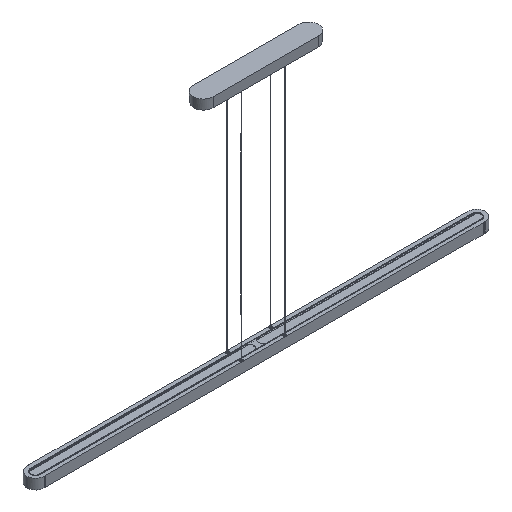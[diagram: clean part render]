
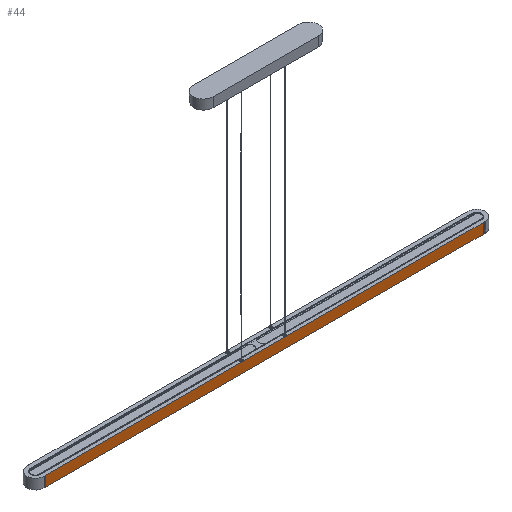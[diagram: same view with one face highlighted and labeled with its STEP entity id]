
A CAD part, isometric view. The second image highlights one B-rep face of the part: STEP entity #44.
In plain terms, the highlighted planar face has unit normal (0, -1, 0).
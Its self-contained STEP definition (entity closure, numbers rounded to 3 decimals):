
#44=ADVANCED_FACE($,(#174),#1716,.T.);
#174=FACE_OUTER_BOUND($,#306,.T.);
#306=EDGE_LOOP($,(#520,#521,#522,#523));
#520=ORIENTED_EDGE($,*,*,#1174,.F.);
#521=ORIENTED_EDGE($,*,*,#1119,.F.);
#522=ORIENTED_EDGE($,*,*,#1155,.T.);
#523=ORIENTED_EDGE($,*,*,#1135,.F.);
#1119=EDGE_CURVE($,#1441,#1442,#1943,.T.);
#1135=EDGE_CURVE($,#1457,#1458,#1959,.T.);
#1155=EDGE_CURVE($,#1441,#1458,#1979,.T.);
#1174=EDGE_CURVE($,#1442,#1457,#1993,.T.);
#1441=VERTEX_POINT($,#2669);
#1442=VERTEX_POINT($,#2670);
#1457=VERTEX_POINT($,#2685);
#1458=VERTEX_POINT($,#2686);
#1716=PLANE($,#2184);
#1943=B_SPLINE_CURVE_WITH_KNOTS($,1,(#2374,#2375),.UNSPECIFIED.,.F.,.F.,
(2,2),(-1717.,0.),.UNSPECIFIED.);
#1959=B_SPLINE_CURVE_WITH_KNOTS($,1,(#2462,#2463),.UNSPECIFIED.,.F.,.F.,
(2,2),(0.,1717.),.UNSPECIFIED.);
#1979=B_SPLINE_CURVE_WITH_KNOTS($,1,(#2534,#2535),.UNSPECIFIED.,.F.,.F.,
(2,2),(-40.,0.),.UNSPECIFIED.);
#1993=B_SPLINE_CURVE_WITH_KNOTS($,1,(#2572,#2573),.UNSPECIFIED.,.F.,.F.,
(2,2),(-40.,0.),.UNSPECIFIED.);
#2184=AXIS2_PLACEMENT_3D($,#2594,#2241,$);
#2241=DIRECTION($,(0.,-1.,0.));
#2374=CARTESIAN_POINT($,(858.5,-34.,-1000.));
#2375=CARTESIAN_POINT($,(-858.5,-34.,-1000.));
#2462=CARTESIAN_POINT($,(-858.5,-34.,-960.));
#2463=CARTESIAN_POINT($,(858.5,-34.,-960.));
#2534=CARTESIAN_POINT($,(858.5,-34.,-1000.));
#2535=CARTESIAN_POINT($,(858.5,-34.,-960.));
#2572=CARTESIAN_POINT($,(-858.5,-34.,-1000.));
#2573=CARTESIAN_POINT($,(-858.5,-34.,-960.));
#2594=CARTESIAN_POINT($,(858.5,-34.,-1000.));
#2669=CARTESIAN_POINT($,(858.5,-34.,-1000.));
#2670=CARTESIAN_POINT($,(-858.5,-34.,-1000.));
#2685=CARTESIAN_POINT($,(-858.5,-34.,-960.));
#2686=CARTESIAN_POINT($,(858.5,-34.,-960.));
